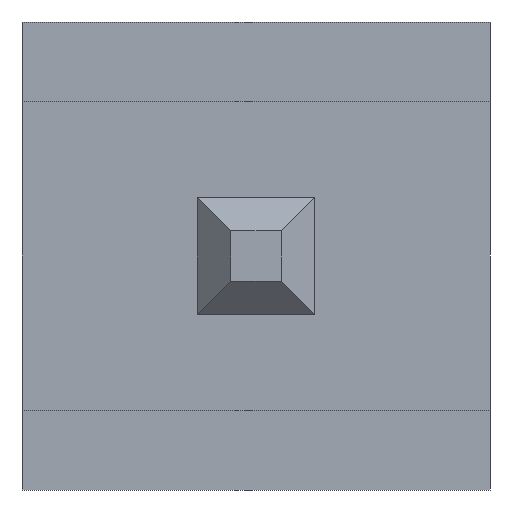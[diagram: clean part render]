
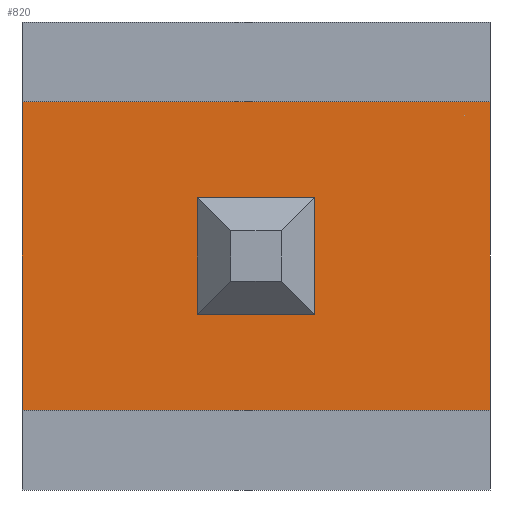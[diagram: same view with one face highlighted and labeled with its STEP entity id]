
A CAD part, front view. The second image highlights one B-rep face of the part: STEP entity #820.
In plain terms, the highlighted planar face has unit normal (0, -1, 0).
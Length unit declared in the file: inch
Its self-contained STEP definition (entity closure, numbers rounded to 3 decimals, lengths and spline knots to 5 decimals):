
#93=ORIENTED_EDGE('',*,*,#272,.T.);
#94=ORIENTED_EDGE('',*,*,#282,.T.);
#95=ORIENTED_EDGE('',*,*,#279,.T.);
#96=ORIENTED_EDGE('',*,*,#276,.T.);
#97=ORIENTED_EDGE('',*,*,#267,.T.);
#98=ORIENTED_EDGE('',*,*,#287,.F.);
#99=ORIENTED_EDGE('',*,*,#257,.F.);
#100=ORIENTED_EDGE('',*,*,#288,.T.);
#257=EDGE_CURVE('',#369,#370,#441,.T.);
#267=EDGE_CURVE('',#377,#376,#451,.T.);
#272=EDGE_CURVE('',#381,#382,#456,.T.);
#276=EDGE_CURVE('',#385,#381,#460,.T.);
#279=EDGE_CURVE('',#387,#385,#463,.T.);
#282=EDGE_CURVE('',#382,#387,#466,.T.);
#287=EDGE_CURVE('',#370,#376,#471,.T.);
#288=EDGE_CURVE('',#369,#377,#472,.T.);
#369=VERTEX_POINT('',#1163);
#370=VERTEX_POINT('',#1164);
#376=VERTEX_POINT('',#1181);
#377=VERTEX_POINT('',#1183);
#381=VERTEX_POINT('',#1193);
#382=VERTEX_POINT('',#1194);
#385=VERTEX_POINT('',#1202);
#387=VERTEX_POINT('',#1208);
#441=LINE('',#1162,#553);
#451=LINE('',#1182,#563);
#456=LINE('',#1192,#568);
#460=LINE('',#1201,#572);
#463=LINE('',#1207,#575);
#466=LINE('',#1213,#578);
#471=LINE('',#1222,#583);
#472=LINE('',#1224,#584);
#553=VECTOR('',#949,39.37008);
#563=VECTOR('',#963,39.37008);
#568=VECTOR('',#970,39.37008);
#572=VECTOR('',#976,39.37008);
#575=VECTOR('',#981,39.37008);
#578=VECTOR('',#986,39.37008);
#583=VECTOR('',#999,39.37008);
#584=VECTOR('',#1002,39.37008);
#675=EDGE_LOOP('',(#93,#94,#95,#96));
#676=EDGE_LOOP('',(#97,#98,#99,#100));
#725=FACE_BOUND('',#675,.T.);
#726=FACE_BOUND('',#676,.T.);
#774=PLANE('',#903);
#820=ADVANCED_FACE('',(#725,#726),#774,.F.);
#903=AXIS2_PLACEMENT_3D('',#1225,#1003,#1004);
#949=DIRECTION('',(0.,0.,1.));
#963=DIRECTION('',(0.,0.,1.));
#970=DIRECTION('',(0.,0.,1.));
#976=DIRECTION('',(-1.,0.,0.));
#981=DIRECTION('',(0.,0.,-1.));
#986=DIRECTION('',(1.,0.,0.));
#999=DIRECTION('',(1.,0.,0.));
#1002=DIRECTION('',(1.,0.,0.));
#1003=DIRECTION('',(0.,1.,0.));
#1004=DIRECTION('',(0.,0.,1.));
#1162=CARTESIAN_POINT('',(-0.05,0.02,-0.033));
#1163=CARTESIAN_POINT('',(-0.05,0.02,-0.033));
#1164=CARTESIAN_POINT('',(-0.05,0.02,0.033));
#1181=CARTESIAN_POINT('',(0.05,0.02,0.033));
#1182=CARTESIAN_POINT('',(0.05,0.02,-0.033));
#1183=CARTESIAN_POINT('',(0.05,0.02,-0.033));
#1192=CARTESIAN_POINT('',(-0.0125,0.02,-0.0125));
#1193=CARTESIAN_POINT('',(-0.0125,0.02,-0.0125));
#1194=CARTESIAN_POINT('',(-0.0125,0.02,0.0125));
#1201=CARTESIAN_POINT('',(0.0125,0.02,-0.0125));
#1202=CARTESIAN_POINT('',(0.0125,0.02,-0.0125));
#1207=CARTESIAN_POINT('',(0.0125,0.02,0.0125));
#1208=CARTESIAN_POINT('',(0.0125,0.02,0.0125));
#1213=CARTESIAN_POINT('',(-0.0125,0.02,0.0125));
#1222=CARTESIAN_POINT('',(-0.05,0.02,0.033));
#1224=CARTESIAN_POINT('',(-0.05,0.02,-0.033));
#1225=CARTESIAN_POINT('',(-0.05,0.02,-0.033));
